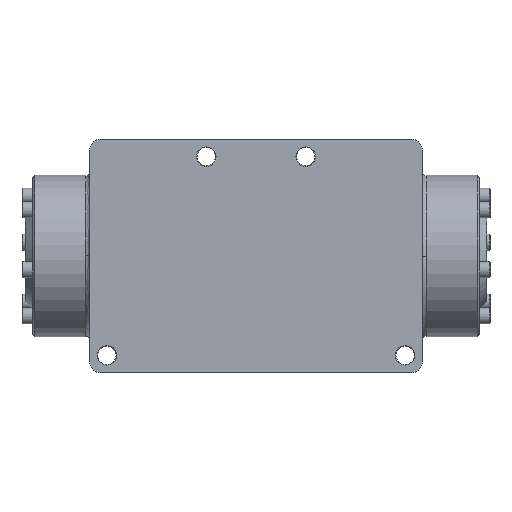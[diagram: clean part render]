
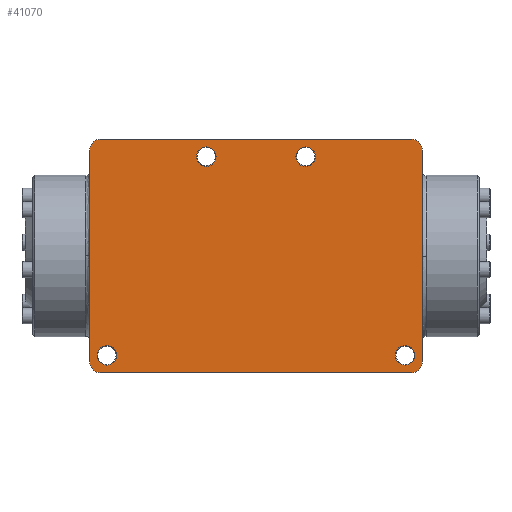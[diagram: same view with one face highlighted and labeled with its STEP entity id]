
A CAD part, front view. The second image highlights one B-rep face of the part: STEP entity #41070.
In plain terms, the highlighted planar face has unit normal (0, -1, 0).
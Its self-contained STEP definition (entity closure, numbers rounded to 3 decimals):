
#1493=LINE('',#66913,#3999);
#1494=LINE('',#66917,#4000);
#1495=LINE('',#66921,#4001);
#1496=LINE('',#66924,#4002);
#3999=VECTOR('',#52799,15.558);
#4000=VECTOR('',#52802,22.86);
#4001=VECTOR('',#52805,15.558);
#4002=VECTOR('',#52808,22.86);
#7407=FACE_BOUND('',#12788,.T.);
#7408=FACE_BOUND('',#12789,.T.);
#7409=FACE_BOUND('',#12790,.T.);
#7410=FACE_BOUND('',#12791,.T.);
#9643=FACE_OUTER_BOUND('',#12787,.T.);
#12787=EDGE_LOOP('',(#30570,#30571,#30572,#30573,#30574,#30575,#30576,#30577));
#12788=EDGE_LOOP('',(#30578));
#12789=EDGE_LOOP('',(#30579));
#12790=EDGE_LOOP('',(#30580));
#12791=EDGE_LOOP('',(#30581));
#15508=CIRCLE('',#44835,0.714);
#15510=CIRCLE('',#44838,0.714);
#15512=CIRCLE('',#44841,0.714);
#15514=CIRCLE('',#44844,0.714);
#15523=CIRCLE('',#44868,0.794);
#15524=CIRCLE('',#44869,0.794);
#15525=CIRCLE('',#44870,0.794);
#15526=CIRCLE('',#44871,0.794);
#18193=VERTEX_POINT('',#66861);
#18195=VERTEX_POINT('',#66866);
#18197=VERTEX_POINT('',#66871);
#18199=VERTEX_POINT('',#66876);
#18208=VERTEX_POINT('',#66909);
#18209=VERTEX_POINT('',#66910);
#18210=VERTEX_POINT('',#66912);
#18211=VERTEX_POINT('',#66914);
#18212=VERTEX_POINT('',#66916);
#18213=VERTEX_POINT('',#66918);
#18214=VERTEX_POINT('',#66920);
#18215=VERTEX_POINT('',#66922);
#22670=EDGE_CURVE('',#18193,#18193,#15508,.T.);
#22672=EDGE_CURVE('',#18195,#18195,#15510,.T.);
#22674=EDGE_CURVE('',#18197,#18197,#15512,.T.);
#22676=EDGE_CURVE('',#18199,#18199,#15514,.T.);
#22685=EDGE_CURVE('',#18208,#18209,#15523,.T.);
#22686=EDGE_CURVE('',#18209,#18210,#1493,.T.);
#22687=EDGE_CURVE('',#18210,#18211,#15524,.T.);
#22688=EDGE_CURVE('',#18211,#18212,#1494,.T.);
#22689=EDGE_CURVE('',#18212,#18213,#15525,.T.);
#22690=EDGE_CURVE('',#18213,#18214,#1495,.T.);
#22691=EDGE_CURVE('',#18214,#18215,#15526,.T.);
#22692=EDGE_CURVE('',#18215,#18208,#1496,.T.);
#30570=ORIENTED_EDGE('',*,*,#22685,.T.);
#30571=ORIENTED_EDGE('',*,*,#22686,.T.);
#30572=ORIENTED_EDGE('',*,*,#22687,.T.);
#30573=ORIENTED_EDGE('',*,*,#22688,.T.);
#30574=ORIENTED_EDGE('',*,*,#22689,.T.);
#30575=ORIENTED_EDGE('',*,*,#22690,.T.);
#30576=ORIENTED_EDGE('',*,*,#22691,.T.);
#30577=ORIENTED_EDGE('',*,*,#22692,.T.);
#30578=ORIENTED_EDGE('',*,*,#22670,.T.);
#30579=ORIENTED_EDGE('',*,*,#22672,.T.);
#30580=ORIENTED_EDGE('',*,*,#22674,.T.);
#30581=ORIENTED_EDGE('',*,*,#22676,.T.);
#36784=PLANE('',#44867);
#41070=ADVANCED_FACE('',(#9643,#7407,#7408,#7409,#7410),#36784,.T.);
#44835=AXIS2_PLACEMENT_3D('',#66862,#52731,#52732);
#44838=AXIS2_PLACEMENT_3D('',#66867,#52737,#52738);
#44841=AXIS2_PLACEMENT_3D('',#66872,#52743,#52744);
#44844=AXIS2_PLACEMENT_3D('',#66877,#52749,#52750);
#44867=AXIS2_PLACEMENT_3D('',#66908,#52795,#52796);
#44868=AXIS2_PLACEMENT_3D('',#66911,#52797,#52798);
#44869=AXIS2_PLACEMENT_3D('',#66915,#52800,#52801);
#44870=AXIS2_PLACEMENT_3D('',#66919,#52803,#52804);
#44871=AXIS2_PLACEMENT_3D('',#66923,#52806,#52807);
#52731=DIRECTION('center_axis',(0.,1.,0.));
#52732=DIRECTION('ref_axis',(1.,0.,0.));
#52737=DIRECTION('center_axis',(0.,1.,0.));
#52738=DIRECTION('ref_axis',(1.,0.,0.));
#52743=DIRECTION('center_axis',(0.,1.,0.));
#52744=DIRECTION('ref_axis',(1.,0.,0.));
#52749=DIRECTION('center_axis',(0.,1.,0.));
#52750=DIRECTION('ref_axis',(1.,0.,0.));
#52795=DIRECTION('center_axis',(0.,-1.,0.));
#52796=DIRECTION('ref_axis',(1.,0.,0.));
#52797=DIRECTION('center_axis',(0.,-1.,0.));
#52798=DIRECTION('ref_axis',(0.707,0.,-0.707));
#52799=DIRECTION('',(0.,0.,1.));
#52800=DIRECTION('center_axis',(0.,-1.,0.));
#52801=DIRECTION('ref_axis',(0.707,0.,0.707));
#52802=DIRECTION('',(-1.,0.,0.));
#52803=DIRECTION('center_axis',(0.,-1.,0.));
#52804=DIRECTION('ref_axis',(-0.707,0.,0.707));
#52805=DIRECTION('',(0.,0.,-1.));
#52806=DIRECTION('center_axis',(0.,-1.,0.));
#52807=DIRECTION('ref_axis',(-0.707,0.,-0.707));
#52808=DIRECTION('',(1.,0.,0.));
#66861=CARTESIAN_POINT('',(4.364,-6.35,7.303));
#66862=CARTESIAN_POINT('Origin',(3.65,-6.35,7.303));
#66866=CARTESIAN_POINT('',(-10.238,-6.35,-7.303));
#66867=CARTESIAN_POINT('Origin',(-10.952,-6.35,-7.303));
#66871=CARTESIAN_POINT('',(11.667,-6.35,-7.303));
#66872=CARTESIAN_POINT('Origin',(10.952,-6.35,-7.303));
#66876=CARTESIAN_POINT('',(-2.936,-6.35,7.303));
#66877=CARTESIAN_POINT('Origin',(-3.65,-6.35,7.303));
#66908=CARTESIAN_POINT('Origin',(-12.51,-6.35,0.));
#66909=CARTESIAN_POINT('',(11.43,-6.35,-8.572));
#66910=CARTESIAN_POINT('',(12.224,-6.35,-7.779));
#66911=CARTESIAN_POINT('Origin',(11.43,-6.35,-7.779));
#66912=CARTESIAN_POINT('',(12.224,-6.35,7.779));
#66913=CARTESIAN_POINT('',(12.224,-6.35,-4.286));
#66914=CARTESIAN_POINT('',(11.43,-6.35,8.573));
#66915=CARTESIAN_POINT('Origin',(11.43,-6.35,7.779));
#66916=CARTESIAN_POINT('',(-11.43,-6.35,8.573));
#66917=CARTESIAN_POINT('',(-0.143,-6.35,8.573));
#66918=CARTESIAN_POINT('',(-12.224,-6.35,7.779));
#66919=CARTESIAN_POINT('Origin',(-11.43,-6.35,7.779));
#66920=CARTESIAN_POINT('',(-12.224,-6.35,-7.779));
#66921=CARTESIAN_POINT('',(-12.224,-6.35,4.286));
#66922=CARTESIAN_POINT('',(-11.43,-6.35,-8.573));
#66923=CARTESIAN_POINT('Origin',(-11.43,-6.35,-7.779));
#66924=CARTESIAN_POINT('',(-12.367,-6.35,-8.573));
